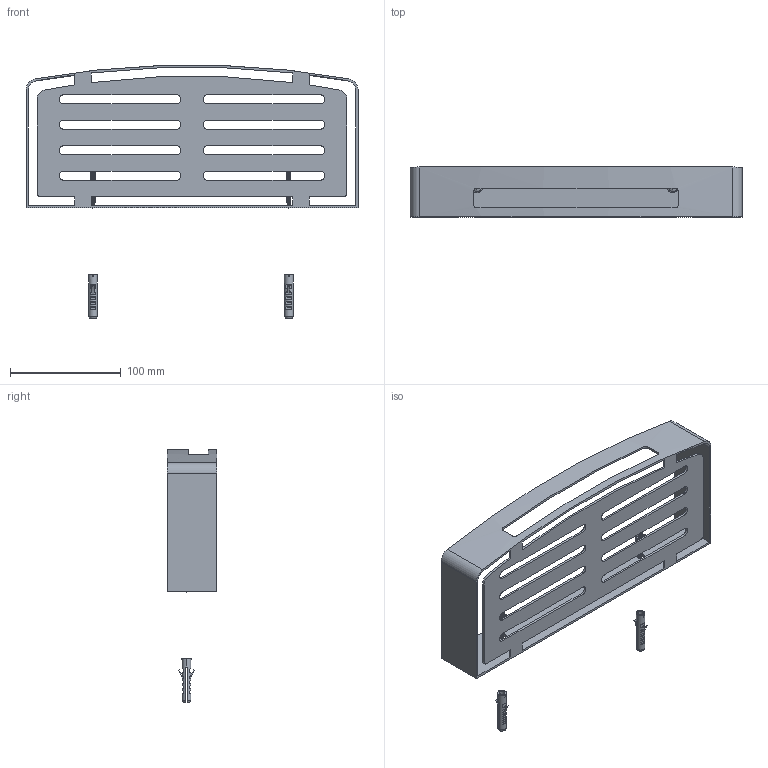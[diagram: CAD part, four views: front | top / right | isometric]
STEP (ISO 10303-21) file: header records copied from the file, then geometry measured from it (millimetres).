
FILE_DESCRIPTION((''),'2;1');
FILE_NAME('WYA035_ASM','2022-02-26T',('Administrator'),(''),'PRO/ENGINEER BY PARAMETRIC TECHNOLOGY CORPORATION, 2010280','PRO/ENGINEER BY PARAMETRIC TECHNOLOGY CORPORATION, 2010280','');
FILE_SCHEMA(('CONFIG_CONTROL_DESIGN'));
Length unit declared in the file: millimetre
Products named in the file (6): 035-1; C40; 035-3; B40; 035-2; WYA035_ASM
Assembly tree (9 placements, depth 2):
  WYA035_ASM
    035-1
    C40  x2
    035-3  x2
    B40  x2
    035-2  x2
Bounding box: 300 x 45 x 228.5 mm (x, y, z)
Volume: 116576.1 mm3; surface area: 127904.1 mm2
Topology: 9 solids, 9 shells, 497 faces, 1316 edges, 846 vertices
Faces by surface type: cylinder 203, plane 200, bspline 58, cone 28, torus 8
Entity records: 16808 total; most frequent: CARTESIAN_POINT 9655, ORIENTED_EDGE 1556, DIRECTION 1289, EDGE_CURVE 778, VERTEX_POINT 507, AXIS2_PLACEMENT_3D 433, VECTOR 423, LINE 423
